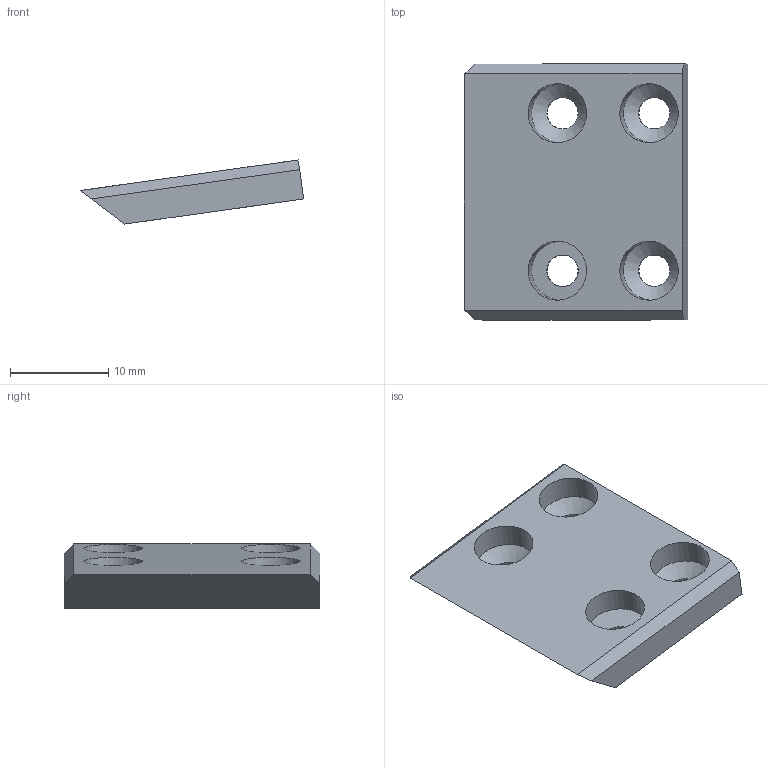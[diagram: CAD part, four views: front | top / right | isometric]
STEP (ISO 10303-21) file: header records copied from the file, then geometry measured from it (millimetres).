
FILE_DESCRIPTION(/* description */ (''),/* implementation_level */ '2;1');
FILE_NAME(/* name */ '3-11-2 Top wishbone cap.step',/* time_stamp */ '2025-05-10T22:04:13+02:00',/* author */ (''),/* organization */ (''),/* preprocessor_version */ 'ST-DEVELOPER v20.1',/* originating_system */ 'Autodesk Translation Framework v14.4.0.0',/* authorisation */ '');
FILE_SCHEMA (('AUTOMOTIVE_DESIGN { 1 0 10303 214 3 1 1 }'));
Length unit declared in the file: millimetre
Products named in the file (1): 3-11-2 Top wishbone cap
Bounding box: 22.69 x 26 x 6.51 mm (x, y, z)
Volume: 1720.8 mm3; surface area: 1605.1 mm2
Topology: 1 solids, 1 shells, 20 faces, 48 edges, 30 vertices
Faces by surface type: plane 8, cylinder 8, cone 4
Full cylindrical faces by diameter (mm): 3.2 x4, 6 x4
Entity records: 638 total; most frequent: DIRECTION 108, CARTESIAN_POINT 99, ORIENTED_EDGE 96, EDGE_CURVE 48, AXIS2_PLACEMENT_3D 39, LINE 30, VECTOR 30, VERTEX_POINT 30
